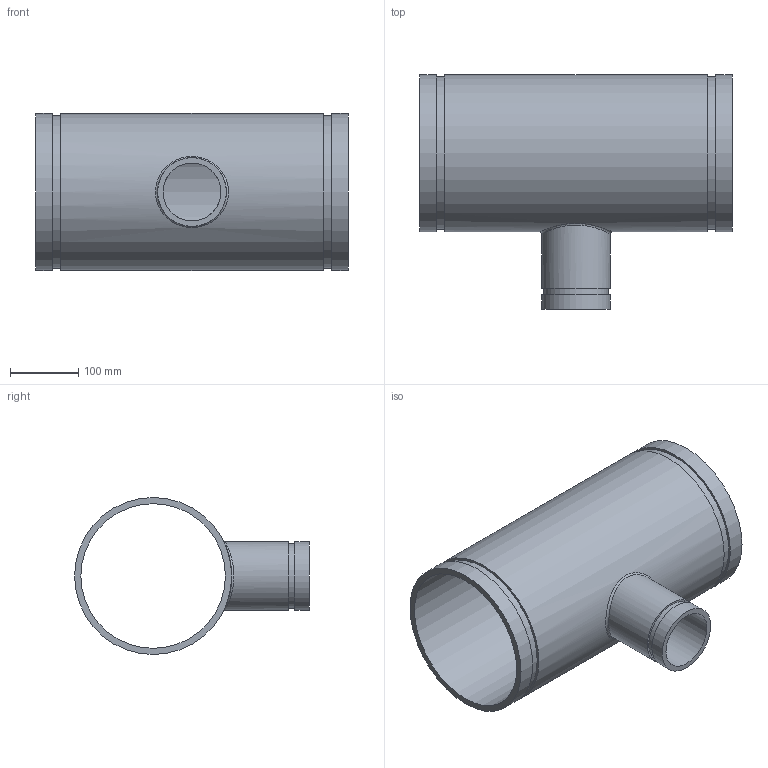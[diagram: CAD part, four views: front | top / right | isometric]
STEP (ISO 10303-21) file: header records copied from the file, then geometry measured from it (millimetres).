
FILE_DESCRIPTION(/* description */ ('VIC REDUCING TEE No 25-C','CAx-IF Rec.Pracs.---Representation and Presentation of Product Manufacturing Information (PMI)---4.0---2014-10-13'),/* implementation_level */ '2;1');
FILE_NAME(/* name */ 'C:\Users\Vjadhav\AppData\Roaming\Autodesk\ApplicationPlugins\Back Up\Victaulic_AWWA_Tee Reducing_No 25-C (DRG)\Victaulic_AWWA_Tee Reducing_No 25-C (DRG)_08.0x03.0 (200x80).stp',/* time_stamp */ '2020-08-18T18:17:43+06:00',/* author */ ('CORINNE GRAY'),/* organization */ ('Victaulic'),/* preprocessor_version */ 'ST-DEVELOPER v17.2',/* originating_system */ 'Autodesk Inventor 2019',/* authorisation */ '');
FILE_SCHEMA (('AP242_MANAGED_MODEL_BASED_3D_ENGINEERING_MIM_LF { 1 0 10303 442 1 1 4 }'));
Length unit declared in the file: inch
Products named in the file (1): 25C-08.0x03.0
Bounding box: 457.2 x 343.54 x 229.87 mm (x, y, z)
Volume: 3048077.5 mm3; surface area: 717327.7 mm2
Topology: 1 solids, 1 shells, 20 faces, 44 edges, 33 vertices
Faces by surface type: cylinder 10, plane 9, bspline 1
Full cylindrical faces by diameter (mm): 84.836 x1, 94.564 x1, 100.584 x2, 211.582 x1, 223.037 x2, 229.87 x3
Entity records: 968 total; most frequent: CARTESIAN_POINT 344, DIRECTION 135, ORIENTED_EDGE 90, AXIS2_PLACEMENT_3D 62, EDGE_CURVE 45, VERTEX_POINT 34, EDGE_LOOP 31, CIRCLE 29
